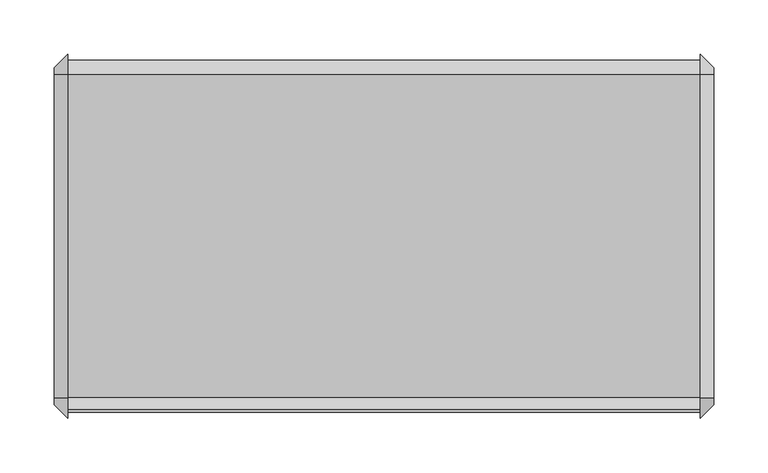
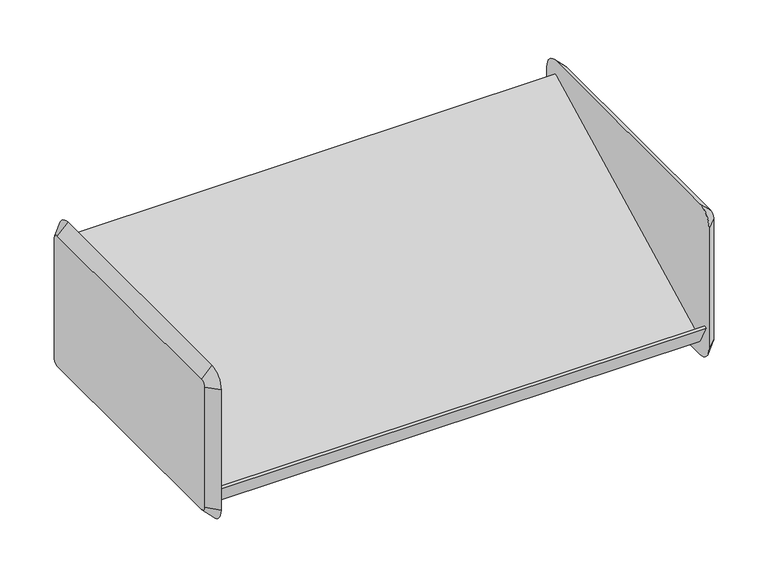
"""IFC4 building model written with IfcOpenShell, lengths in millimetres: furniture geometry."""

from ifc_helpers import new_model, si_unit, frame, origin, place, context, project, spatial, polyline, circle_curve, outline, extrude, source, transform, mapped, element, save
from ifc_brep_helpers import plane_surface, revolved_surface, advanced_brep


def furniture_03e73c74(model_context):
    return source(origin(), model_context, "Body", "SolidModel", [
        advanced_brep(
        [(180.8579955, 161.925, 1511.3), (180.8579955, -136.525, 1511.3), (180.8579955, -142.875, 1504.95), (180.8579955, -142.875, 1352.55), (180.8579955, -136.525, 1346.2), (180.8579955, 161.925, 1346.2), (180.8579955, 168.275, 1352.55), (180.8579955, 168.275, 1504.95), (168.1579955, 161.925, 1524.0), (168.1579955, 180.975, 1504.95), (168.1579955, 180.975, 1352.55), (168.1579955, 161.925, 1333.5), (168.1579955, -136.525, 1333.5), (168.1579955, -155.575, 1352.55), (168.1579955, -155.575, 1504.95), (168.1579955, -136.525, 1524.0)],
        [
            (0, 1),
            (1, 2, circle_curve(frame((180.8579955, -136.525, 1504.95), z_axis=(1.0, 2.0730084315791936e-12, -2.1742607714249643e-12), x_axis=(2.1742640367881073e-12, 0.0, 1.0)), 6.35)),
            (2, 3),
            (3, 4, circle_curve(frame((180.8579955, -136.525, 1352.55), z_axis=(1.0, 2.059685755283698e-12, 2.0463630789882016e-12), x_axis=(2.059647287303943e-12, -1.0, 0.0)), 6.35)),
            (4, 5),
            (5, 6, circle_curve(frame((180.8579955, 161.925, 1352.55), z_axis=(1.0, 2.088995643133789e-12, -2.1103119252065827e-12), x_axis=(-2.1103612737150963e-12, 0.0, -1.0)), 6.35)),
            (6, 7),
            (7, 0, circle_curve(frame((180.8579955, 161.925, 1504.95), z_axis=(1.0, 2.0783375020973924e-12, 1.9824142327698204e-12), x_axis=(-2.0783313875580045e-12, 1.0, 0.0)), 6.35)),
            (8, 9, circle_curve(frame((168.1579955, 161.925, 1504.95), z_axis=(-1.0, -2.0783375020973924e-12, -1.9824142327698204e-12), x_axis=(-2.0783313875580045e-12, 1.0, 0.0)), 19.05)),
            (9, 10),
            (10, 11, circle_curve(frame((168.1579955, 161.925, 1352.55), z_axis=(-1.0, -2.088995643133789e-12, 2.1103119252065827e-12), x_axis=(-2.1103612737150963e-12, 0.0, -1.0)), 19.05)),
            (11, 12),
            (12, 13, circle_curve(frame((168.1579955, -136.525, 1352.55), z_axis=(-1.0, -2.059685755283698e-12, -2.0463630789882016e-12), x_axis=(2.059647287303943e-12, -1.0, 0.0)), 19.05)),
            (13, 14),
            (14, 15, circle_curve(frame((168.1579955, -136.525, 1504.95), z_axis=(-1.0, -2.0730084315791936e-12, 2.1742607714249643e-12), x_axis=(2.1742640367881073e-12, 0.0, 1.0)), 19.05)),
            (15, 8),
            (15, 1),
            (0, 8),
            (14, 2),
            (13, 3),
            (12, 4),
            (11, 5),
            (10, 6),
            (9, 7),
        ],
        [
            plane_surface(frame((180.8579955, 12.7, 1428.75), z_axis=(1.0, 0.0, 0.0), x_axis=(0.0, -1.0, 0.0))),
            plane_surface(frame((168.1579955, 12.7, 1428.75), z_axis=(-1.0, 0.0, 0.0), x_axis=(0.0, -1.0, 0.0))),
            plane_surface(frame((168.1579955, 12.7, 1524.0), z_axis=(0.7071067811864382, 0.0, 0.7071067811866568), x_axis=(0.0, -1.0, 0.0))),
            revolved_surface(polyline([(180.8579955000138, -136.525, 1511.2999999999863), (168.1579955, -136.525, 1524.0)]), (187.2079955, -136.525, 1504.95), (-1.0, -2.0730084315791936e-12, 2.1742607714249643e-12)),
            plane_surface(frame((168.1579955, -155.575, 1428.75), z_axis=(0.707106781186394, -0.7071067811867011, 0.0), x_axis=(0.0, 0.0, -1.0))),
            revolved_surface(polyline([(180.85799550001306, -142.87499999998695, 1352.55), (168.1579955, -155.575, 1352.55)]), (187.2079955, -136.525, 1352.55), (-1.0, -2.059685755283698e-12, -2.0463630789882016e-12)),
            plane_surface(frame((168.1579955, 12.7, 1333.5), z_axis=(0.7071067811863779, 0.0, -0.7071067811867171), x_axis=(0.0, 1.0, 0.0))),
            revolved_surface(polyline([(180.8579955, 161.925, 1346.2), (168.15799549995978, 161.925, 1333.4999999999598)]), (187.2079955, 161.925, 1352.55), (-1.0, -2.088995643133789e-12, 2.1103119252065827e-12)),
            plane_surface(frame((168.1579955, 180.975, 1428.75), z_axis=(0.707106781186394, 0.7071067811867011, 0.0), x_axis=(0.0, 0.0, 1.0))),
            revolved_surface(polyline([(180.8579955, 168.27500000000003, 1504.95), (168.1579954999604, 180.97500000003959, 1504.95)]), (187.2079955, 161.925, 1504.95), (-1.0, -2.0783375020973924e-12, -1.9824142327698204e-12)),
        ],
        [
            (0, [[1, 2, 3, 4, 5, 6, 7, 8]]),
            (1, [[9, 10, 11, 12, 13, 14, 15, 16]]),
            (2, [[-16, 17, -1, 18]]),
            (3, [[-15, 19, -2, -17]]),
            (4, [[-14, 20, -3, -19]]),
            (5, [[-13, 21, -4, -20]]),
            (6, [[-12, 22, -5, -21]]),
            (7, [[-11, 23, -6, -22]]),
            (8, [[-10, 24, -7, -23]]),
            (9, [[-9, -18, -8, -24]]),
        ],
    ),
        advanced_brep(
        [(-428.7420045, -136.525, 1511.3), (-428.7420045, 161.925, 1511.3), (-428.7420045, 168.275, 1504.95), (-428.7420045, 168.275, 1352.55), (-428.7420045, 161.925, 1346.2), (-428.7420045, -136.525, 1346.2), (-428.7420045, -142.875, 1352.55), (-428.7420045, -142.875, 1504.95), (-416.0420045, -136.525, 1524.0), (-416.0420045, -155.575, 1504.95), (-416.0420045, -155.575, 1352.55), (-416.0420045, -136.525, 1333.5), (-416.0420045, 161.925, 1333.5), (-416.0420045, 180.975, 1352.55), (-416.0420045, 180.975, 1504.95), (-416.0420045, 161.925, 1524.0)],
        [
            (0, 1),
            (1, 2, circle_curve(frame((-428.7420045, 161.925, 1504.95), z_axis=(-1.0, 0.0, 0.0), x_axis=(0.0, 0.0, 1.0)), 6.35)),
            (2, 3),
            (3, 4, circle_curve(frame((-428.7420045, 161.925, 1352.55), z_axis=(-1.0, 0.0, 0.0), x_axis=(0.0, 1.0, 0.0)), 6.35)),
            (4, 5),
            (5, 6, circle_curve(frame((-428.7420045, -136.525, 1352.55), z_axis=(-1.0, 0.0, 0.0), x_axis=(0.0, 0.0, -1.0)), 6.35)),
            (6, 7),
            (7, 0, circle_curve(frame((-428.7420045, -136.525, 1504.95), z_axis=(-1.0, 0.0, 0.0), x_axis=(0.0, -1.0, 0.0)), 6.35)),
            (8, 9, circle_curve(frame((-416.0420045, -136.525, 1504.95), z_axis=(1.0, 0.0, 0.0), x_axis=(0.0, -1.0, 0.0)), 19.05)),
            (9, 10),
            (10, 11, circle_curve(frame((-416.0420045, -136.525, 1352.55), z_axis=(1.0, 0.0, 0.0), x_axis=(0.0, 0.0, -1.0)), 19.05)),
            (11, 12),
            (12, 13, circle_curve(frame((-416.0420045, 161.925, 1352.55), z_axis=(1.0, 0.0, 0.0), x_axis=(0.0, 1.0, 0.0)), 19.05)),
            (13, 14),
            (14, 15, circle_curve(frame((-416.0420045, 161.925, 1504.95), z_axis=(1.0, 0.0, 0.0), x_axis=(0.0, 0.0, 1.0)), 19.05)),
            (15, 8),
            (15, 1),
            (0, 8),
            (14, 2),
            (13, 3),
            (12, 4),
            (11, 5),
            (10, 6),
            (9, 7),
        ],
        [
            plane_surface(frame((-428.7420045, 12.7, 1428.75), z_axis=(-1.0, 0.0, 0.0), x_axis=(0.0, -1.0, 0.0))),
            plane_surface(frame((-416.0420045, 12.7, 1428.75), z_axis=(1.0, 0.0, 0.0), x_axis=(0.0, -1.0, 0.0))),
            plane_surface(frame((-416.0420045, 12.7, 1524.0), z_axis=(-0.7071067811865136, 0.0, 0.7071067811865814), x_axis=(0.0, 1.0, 0.0))),
            revolved_surface(polyline([(-428.7420045, 161.925, 1511.3), (-416.0420045, 161.925, 1524.0)]), (-435.0920045, 161.925, 1504.95), (1.0, 0.0, 0.0)),
            plane_surface(frame((-416.0420045, 180.975, 1428.75), z_axis=(-0.7071067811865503, 0.7071067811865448, 0.0), x_axis=(0.0, 0.0, -1.0))),
            revolved_surface(polyline([(-428.7420045, 168.27499999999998, 1352.55), (-416.0420045, 180.975, 1352.55)]), (-435.0920045, 161.925, 1352.55), (1.0, 0.0, 0.0)),
            plane_surface(frame((-416.0420045, 12.7, 1333.5), z_axis=(-0.707106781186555, 0.0, -0.70710678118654), x_axis=(0.0, -1.0, 0.0))),
            revolved_surface(polyline([(-428.7420045, -136.525, 1346.2), (-416.0420045, -136.525, 1333.5)]), (-435.0920045, -136.525, 1352.55), (1.0, 0.0, 0.0)),
            plane_surface(frame((-416.0420045, -155.575, 1428.75), z_axis=(-0.7071067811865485, -0.7071067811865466, 0.0), x_axis=(0.0, 0.0, 1.0))),
            revolved_surface(polyline([(-428.7420045, -142.87499999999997, 1504.95), (-416.0420045, -155.575, 1504.95)]), (-435.0920045, -136.525, 1504.95), (1.0, 0.0, 0.0)),
        ],
        [
            (0, [[1, 2, 3, 4, 5, 6, 7, 8]]),
            (1, [[9, 10, 11, 12, 13, 14, 15, 16]]),
            (2, [[-16, 17, -1, 18]]),
            (3, [[-15, 19, -2, -17]]),
            (4, [[-14, 20, -3, -19]]),
            (5, [[-13, 21, -4, -20]]),
            (6, [[-12, 22, -5, -21]]),
            (7, [[-11, 23, -6, -22]]),
            (8, [[-10, 24, -7, -23]]),
            (9, [[-9, -18, -8, -24]]),
        ],
    ),
        extrude(outline(polyline([(-137.2094993, 1350.4179666), (-149.845093, 1374.8467844), (-147.0173828, 1376.2907216), (-135.8404765, 1354.6820334), (162.5893131, 1507.0717194), (175.2453599, 1483.4470972), (172.4171401, 1482.0028998), (161.2606869, 1502.8282806), (-137.2094993, 1350.4179666)])), frame((-416.0420045, 0.0, 0.0), z_axis=(1.0, 0.0, 0.0), x_axis=(0.0, 1.0, 0.0)), (0.0, 0.0, 1.0), 584.2),
    ])


if __name__ == "__main__":
    model = new_model("IFC4")
    model_context = context("Model", 3, world=origin())
    ifc_project = project(units=[si_unit("LENGTHUNIT", "METRE", prefix="MILLI")], contexts=[model_context])
    site = spatial("IfcSite", under=ifc_project)
    building = spatial("IfcBuilding", under=site)
    placement = place(None, origin())
    furniture_shape = furniture_03e73c74(model_context)
    element("IfcFurniture", 1, ObjectType="HermanMiller_ActionOffice_A3220_B-StyleStorageDisplay : Display 13\"D x 24\"W", at=placement, inside=building, context=model_context, shape_type="MappedRepresentation", body=[
        mapped(furniture_shape, transform((0.0, 0.0, 0.0), x_axis=(1.0, 0.0, 0.0), y_axis=(0.0, 1.0, 0.0), z_axis=(0.0, 0.0, 1.0))),
    ])
    save(model, "model.ifc")
